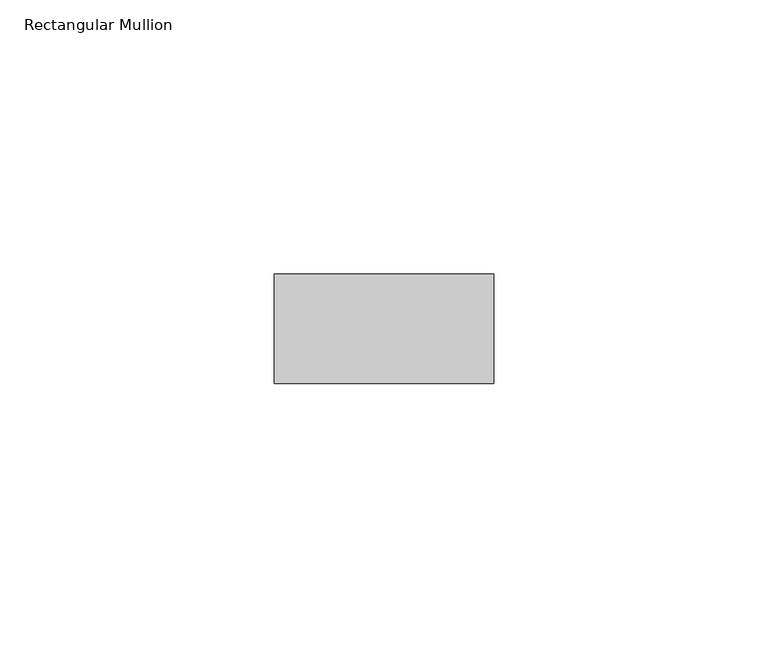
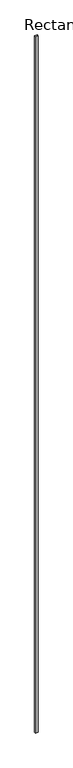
"""IFC4 building model written with IfcOpenShell, lengths in millimetres: member geometry, Rectangular Mullion : RIPA 4x2 cm."""

from ifc_helpers import new_model, si_unit, frame, origin, place, context, project, spatial, polyline, outline, extrude, source, transform, mapped, element, save


def rectangular_mullion_523a1e29(model_context):
    return source(origin(), model_context, "Body", "SweptSolid", [
        extrude(outline(polyline([(20.0, 0.0), (20.0, -20.0), (-20.0, -20.0), (-20.0, 0.0), (20.0, 0.0)])), frame((0.0, 0.0, -11350.0), z_axis=(0.0, 0.0, 1.0), x_axis=(1.0, 0.0, 0.0)), (0.0, 0.0, 1.0), 11350.0),
    ])


if __name__ == "__main__":
    model = new_model("IFC4")
    model_context = context("Model", 3, world=origin())
    ifc_project = project(units=[si_unit("LENGTHUNIT", "METRE", prefix="MILLI")], contexts=[model_context])
    site = spatial("IfcSite", under=ifc_project)
    building = spatial("IfcBuilding", under=site)
    placement = place(None, origin())
    rectangular_mullion_shape = rectangular_mullion_523a1e29(model_context)
    element("IfcMember", 1, ObjectType="Rectangular Mullion : RIPA 4x2 cm", at=placement, inside=building, context=model_context, shape_type="MappedRepresentation", body=[
        mapped(rectangular_mullion_shape, transform((0.0, 0.0, 0.0), x_axis=(1.0, 0.0, 0.0), y_axis=(0.0, 1.0, 0.0), z_axis=(0.0, 0.0, 1.0))),
    ])
    save(model, "model.ifc")
